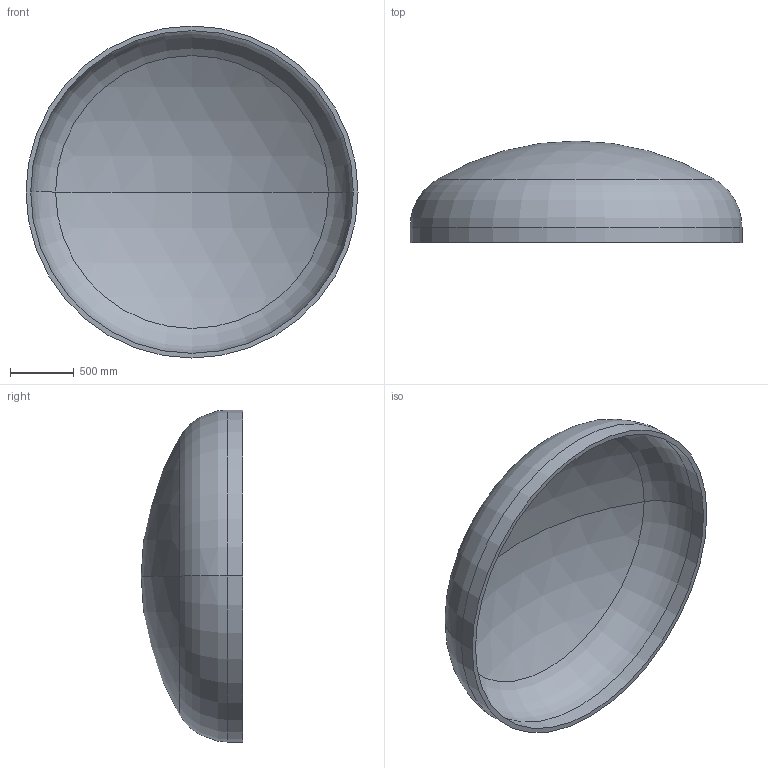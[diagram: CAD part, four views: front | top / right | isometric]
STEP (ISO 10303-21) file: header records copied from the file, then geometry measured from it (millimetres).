
FILE_DESCRIPTION (( 'STEP AP203' ), '1' );
FILE_NAME ('DIN 28013 Korbbogenform_-_Boden DIN 28013 - 2600 x 120 - I - s=37.step', '2016-07-01T16:08:42', ( '' ), ( '' ), 'SwSTEP 2.0', 'SolidWorks 2013', '' );
FILE_SCHEMA (( 'CONFIG_CONTROL_DESIGN' ));
Length unit declared in the file: millimetre
Products named in the file (1): DIN 28013 Korbbogenform_-_Boden DIN 28013 - 2600 x 120 - I - s=37
Bounding box: 2600 x 795.6 x 2600 mm (x, y, z)
Volume: 302702482.5 mm3; surface area: 16663078.3 mm2
Topology: 1 solids, 1 shells, 13 faces, 24 edges, 14 vertices
Faces by surface type: torus 4, cylinder 4, sphere 4, plane 1
Entity records: 407 total; most frequent: DIRECTION 72, CARTESIAN_POINT 52, ORIENTED_EDGE 48, AXIS2_PLACEMENT_3D 34, EDGE_CURVE 24, CIRCLE 20, EDGE_LOOP 14, VERTEX_POINT 14
